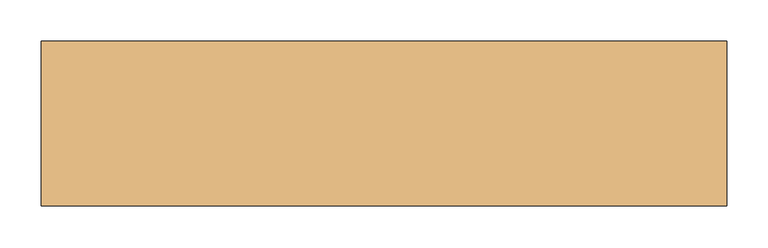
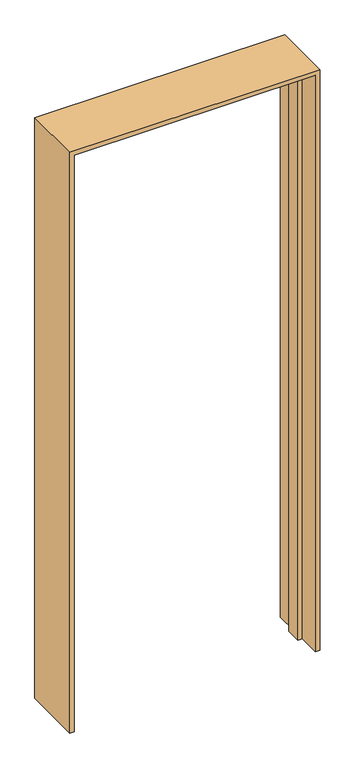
"""IFC4 building model written with IfcOpenShell, lengths in millimetres: door geometry, FREYS HUISSERIE A BANCHER : FREYS 83*2.035."""

import ifcopenshell
import ifcopenshell.guid

model = None  # the IFC model being written
_history = None  # IfcOwnerHistory: only IFC2X3 demands one
_inside = {}  # id of a spatial element -> (the spatial element, [elements in it])
_under = {}  # id of a project, library or spatial element -> (it, [spatial elements below it])
_declared = {}  # id of a project -> (the project, [libraries it declares])
_typed = {}  # id of a type object -> (the type object, [elements of that type])
_made_of = {}  # id of a material, layer set ... -> (it, [elements and type objects made of it])


def new_model(schema):
    """Start an empty IFC model of exactly this schema.

    Asked for "IFC4X3", IfcOpenShell would pick the latest addendum, in which some entities
    have other attributes; the version numbers below select the first issue.
    IFC2X3 requires an IfcOwnerHistory on every rooted entity: one is made here for all.
    """
    global model, _history
    if schema == "IFC4X3":
        model = ifcopenshell.file(schema_version=(4, 3, 0, 0))
    else:
        model = ifcopenshell.file(schema=schema)
    _inside.clear()
    _under.clear()
    _declared.clear()
    _typed.clear()
    _made_of.clear()
    _history = None
    if model.schema == "IFC2X3":
        org = make("IfcOrganization", Name="unknown")
        user = make(
            "IfcPersonAndOrganization",
            ThePerson=make("IfcPerson", FamilyName="unknown"),
            TheOrganization=org,
        )
        app = make(
            "IfcApplication",
            ApplicationDeveloper=org,
            Version="unknown",
            ApplicationFullName="unknown",
            ApplicationIdentifier="unknown",
        )
        _history = make(
            "IfcOwnerHistory",
            OwningUser=user,
            OwningApplication=app,
            ChangeAction="ADDED",
            CreationDate=0,
        )
    return model


def make(cls, **values):
    """One entity of the class cls with the attributes given. An attribute that is None is left unset."""
    return model.create_entity(
        cls, **{name: value for name, value in values.items() if value is not None}
    )


def rooted(cls, **values):
    """An entity with a GlobalId (a new one), such as an element, a storey or a relation."""
    return make(cls, GlobalId=ifcopenshell.guid.new(), OwnerHistory=_history, **values)


def si_unit(unit_type, name, prefix=None):
    """IfcSIUnit, for example si_unit("LENGTHUNIT", "METRE", prefix="MILLI")."""
    return make("IfcSIUnit", UnitType=unit_type, Prefix=prefix, Name=name)


def assignment(units):
    """IfcUnitAssignment: the units of a project."""
    return None if units is None else make("IfcUnitAssignment", Units=units)


def point(xyz):
    """IfcCartesianPoint."""
    return None if xyz is None else make("IfcCartesianPoint", Coordinates=xyz)


def direction(xyz):
    """IfcDirection."""
    return None if xyz is None else make("IfcDirection", DirectionRatios=xyz)


def frame(location, z_axis=None, x_axis=None):
    """IfcAxis2Placement3D, a coordinate frame: its origin and axes. An axis left out is left unset."""
    return make(
        "IfcAxis2Placement3D",
        Location=point(location),
        Axis=direction(z_axis),
        RefDirection=direction(x_axis),
    )


def origin():
    """The frame at (0, 0, 0) with its axes left unset."""
    return frame((0.0, 0.0, 0.0))


def place(relative_to, where):
    """IfcLocalPlacement: puts the frame where relative to a parent placement (None: the world)."""
    return make(
        "IfcLocalPlacement", PlacementRelTo=relative_to, RelativePlacement=where
    )


def context(
    kind, dimensions, precision=None, world=None, true_north=None, identifier=None
):
    """IfcGeometricRepresentationContext, for example the 3D "Model" context."""
    return make(
        "IfcGeometricRepresentationContext",
        ContextIdentifier=identifier,
        ContextType=kind,
        CoordinateSpaceDimension=dimensions,
        Precision=precision,
        WorldCoordinateSystem=world,
        TrueNorth=true_north,
    )


def project(units=None, contexts=None):
    """IfcProject with its units and contexts."""
    return rooted(
        "IfcProject",
        Name="project",
        RepresentationContexts=contexts,
        UnitsInContext=assignment(units),
    )


def spatial(cls, under=None, at=None, **own):
    """A site, building, storey or space (cls), placed at a placement, below another one or the project."""
    s = rooted(cls, ObjectPlacement=at, **own)
    if under is not None:
        _under.setdefault(under.id(), (under, []))[1].append(s)
    return s


def faces_of(points, faces, orient=None, outer=None):
    """IfcFace entities. A face is a list of loops; a loop is a list of indices into points, from 0.

    orient and outer hold one flag for each loop. By default every Orientation is true, the
    first loop of a face is its IfcFaceOuterBound and the others are IfcFaceBound.
    """
    made = []
    for i, loops in enumerate(faces):
        bounds = []
        for j, loop in enumerate(loops):
            is_outer = j == 0 if outer is None else outer[i][j]
            bounds.append(
                make(
                    "IfcFaceOuterBound" if is_outer else "IfcFaceBound",
                    Bound=make("IfcPolyLoop", Polygon=[points[k] for k in loop]),
                    Orientation=True if orient is None else orient[i][j],
                )
            )
        made.append(make("IfcFace", Bounds=bounds))
    return made


def faceted_brep(points, faces, orient=None, outer=None, voids=None):
    """IfcFacetedBrep: a solid bounded by flat faces; with voids (closed shells), ...WithVoids."""
    shared = [point(p) for p in points]
    hull = make("IfcClosedShell", CfsFaces=faces_of(shared, faces, orient, outer))
    if voids is None:
        return make("IfcFacetedBrep", Outer=hull)
    return make(
        "IfcFacetedBrepWithVoids",
        Outer=hull,
        Voids=[
            make(cls, CfsFaces=faces_of(shared, fs, o, b)) for cls, fs, o, b in voids
        ],
    )


def shape(context_of_items, identifier, shape_type, items):
    """IfcShapeRepresentation: the items that make up one representation, for example the "Body"."""
    return make(
        "IfcShapeRepresentation",
        ContextOfItems=context_of_items,
        RepresentationIdentifier=identifier,
        RepresentationType=shape_type,
        Items=items,
    )


def source(mapping_origin, context_of_items, identifier, shape_type, items):
    """IfcRepresentationMap: a shape defined once, which mapped items show again and again."""
    return make(
        "IfcRepresentationMap",
        MappingOrigin=mapping_origin,
        MappedRepresentation=shape(context_of_items, identifier, shape_type, items),
    )


def transform(
    local_origin,
    x_axis=None,
    y_axis=None,
    z_axis=None,
    scale=None,
    scale2=None,
    scale3=None,
    uniform=True,
):
    """IfcCartesianTransformationOperator3D, or its non-uniform kind. x_axis, y_axis, z_axis: its Axis1, 2, 3."""
    if uniform:
        return make(
            "IfcCartesianTransformationOperator3D",
            Axis1=direction(x_axis),
            Axis2=direction(y_axis),
            LocalOrigin=point(local_origin),
            Scale=scale,
            Axis3=direction(z_axis),
        )
    return make(
        "IfcCartesianTransformationOperator3DnonUniform",
        Axis1=direction(x_axis),
        Axis2=direction(y_axis),
        LocalOrigin=point(local_origin),
        Scale=scale,
        Axis3=direction(z_axis),
        Scale2=scale2,
        Scale3=scale3,
    )


def mapped(mapping_source, mapping_target):
    """IfcMappedItem: shows the shape of a source again, moved by a transform."""
    return make(
        "IfcMappedItem", MappingSource=mapping_source, MappingTarget=mapping_target
    )


def made_of(thing, what):
    """Note that an element or type object is made of a material, layer set ...; save() writes the relation."""
    if what is not None:
        _made_of.setdefault(what.id(), (what, []))[1].append(thing)
    return thing


def element(
    cls,
    number,
    at=None,
    inside=None,
    cuts=None,
    type_object=None,
    material=None,
    context=None,
    identifier="Body",
    shape_type=None,
    held_by="IfcProductDefinitionShape",
    body=None,
    shapes=None,
    **own,
):
    """One element of the class cls, such as IfcWall. Its Tag is "e" and its number.

    at: its placement. inside: the storey or other place that contains it. cuts: it is an
    opening in that element (IfcRelVoidsElement). A single representation is given by context,
    identifier, shape_type and body (its items); several are given by shapes. held_by: the class
    of the entity that holds the representations. save() writes the other relations.
    """
    e = rooted(cls, Tag="e%d" % number, ObjectPlacement=at, **own)
    if body is not None:
        shapes = [shape(context, identifier, shape_type, body)]
    if shapes is not None:
        e.Representation = make(held_by, Representations=shapes)
    if inside is not None:
        _inside.setdefault(inside.id(), (inside, []))[1].append(e)
    if cuts is not None:
        rooted(
            "IfcRelVoidsElement", RelatingBuildingElement=cuts, RelatedOpeningElement=e
        )
    if type_object is not None:
        _typed.setdefault(type_object.id(), (type_object, []))[1].append(e)
    return made_of(e, material)


def aggregate(whole, parts):
    """IfcRelAggregates: a whole, such as a stair, and the parts it consists of."""
    return rooted("IfcRelAggregates", RelatingObject=whole, RelatedObjects=parts)


def save(model, path):
    """Write the relations noted so far, then the file.

    IfcRelAggregates (storeys below a building ...), IfcRelContainedInSpatialStructure (elements
    in a storey), IfcRelDefinesByType, IfcRelAssociatesMaterial and IfcRelDeclares: one each for
    every whole, place, type object, material and project.
    """
    for whole, parts in _under.values():
        aggregate(whole, parts)
    for where, things in _inside.values():
        rooted(
            "IfcRelContainedInSpatialStructure",
            RelatedElements=things,
            RelatingStructure=where,
        )
    for kind, things in _typed.values():
        rooted("IfcRelDefinesByType", RelatedObjects=things, RelatingType=kind)
    for what, things in _made_of.values():
        rooted("IfcRelAssociatesMaterial", RelatedObjects=things, RelatingMaterial=what)
    for by, libraries in _declared.values():
        rooted("IfcRelDeclares", RelatingContext=by, RelatedDefinitions=libraries)
    model.write(path)


def door_48b161e2(model_context):
    return source(origin(), model_context, "Body", "Brep", [
        faceted_brep([(391.8113433, 100.0, 0.0), (406.8113433, 100.0, 0.0), (406.8113433, -100.0, 0.0), (391.8113433, -100.0, 0.0), (391.8113433, -26.2, 0.0), (376.8113433, -26.2, 0.0), (376.8113433, 26.2, 0.0), (391.8113433, 26.2, 0.0), (391.8113433, 100.0, 2020.0), (-408.1886567, 100.0, 2020.0), (-408.1886567, 100.0, 0.0), (-423.1886567, 100.0, 0.0), (-423.1886567, 100.0, 2035.0), (406.8113433, 100.0, 2035.0), (406.8113433, -100.0, 2035.0), (-423.1886567, -100.0, 2035.0), (-423.1886567, -100.0, 0.0), (-408.1886567, -100.0, 0.0), (-408.1886567, -100.0, 2020.0), (391.8113433, -100.0, 2020.0), (391.8113433, -26.2, 2020.0), (-408.1886567, -26.2, 2020.0), (-408.1886567, -26.2, 0.0), (-393.1886567, -26.2, 0.0), (-393.1886567, -26.2, 2005.0), (376.8113433, -26.2, 2005.0), (376.8113433, 26.2, 2005.0), (-393.1886567, 26.2, 2005.0), (-393.1886567, 26.2, 0.0), (-408.1886567, 26.2, 0.0), (-408.1886567, 26.2, 2020.0), (391.8113433, 26.2, 2020.0)], [[[0, 1, 2, 3, 4, 5, 6, 7]], [[1, 0, 8, 9, 10, 11, 12, 13]], [[2, 1, 13, 14]], [[3, 2, 14, 15, 16, 17, 18, 19]], [[4, 3, 19, 20]], [[5, 4, 20, 21, 22, 23, 24, 25]], [[6, 5, 25, 26]], [[7, 6, 26, 27, 28, 29, 30, 31]], [[0, 7, 31, 8]], [[9, 30, 29, 10]], [[10, 29, 28, 23, 22, 17, 16, 11]], [[15, 12, 11, 16]], [[21, 18, 17, 22]], [[27, 24, 23, 28]], [[14, 13, 12, 15]], [[26, 25, 24, 27]], [[20, 19, 18, 21]], [[8, 31, 30, 9]]]),
    ])


if __name__ == "__main__":
    model = new_model("IFC4")
    model_context = context("Model", 3, world=origin())
    ifc_project = project(units=[si_unit("LENGTHUNIT", "METRE", prefix="MILLI")], contexts=[model_context])
    site = spatial("IfcSite", under=ifc_project)
    building = spatial("IfcBuilding", under=site)
    placement = place(None, origin())
    door_shape = door_48b161e2(model_context)
    element("IfcDoor", 1, ObjectType="FREYS HUISSERIE A BANCHER : FREYS 83*2.035", at=placement, inside=building, context=model_context, shape_type="MappedRepresentation", body=[
        mapped(door_shape, transform((0.0, 0.0, 0.0), x_axis=(1.0, 0.0, 0.0), y_axis=(0.0, 1.0, 0.0), z_axis=(0.0, 0.0, 1.0))),
    ])
    save(model, "model.ifc")
